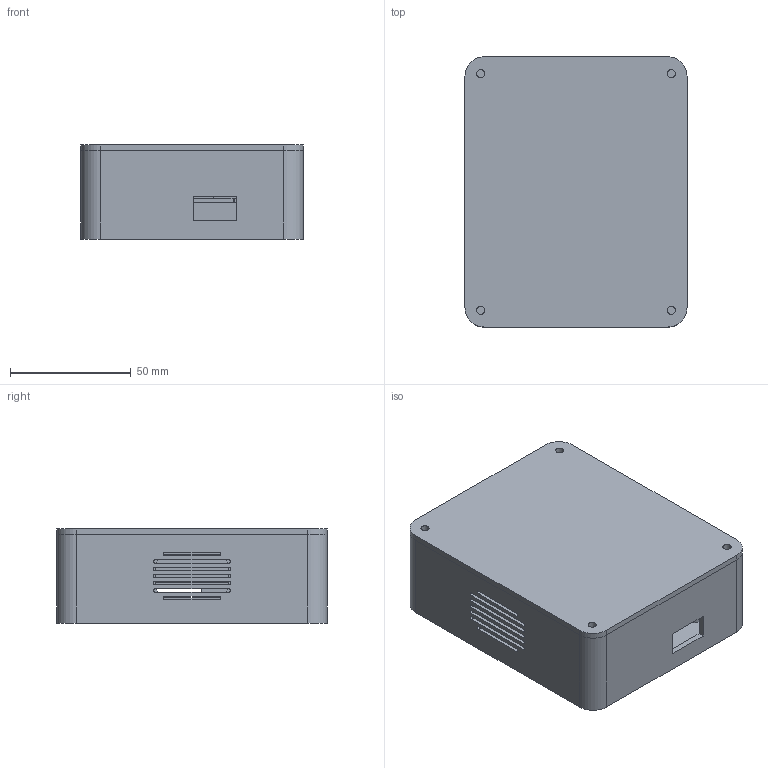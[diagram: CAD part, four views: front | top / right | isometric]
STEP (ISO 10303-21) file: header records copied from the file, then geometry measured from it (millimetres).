
FILE_DESCRIPTION(('Open CASCADE Model'),'2;1');
FILE_NAME('Open CASCADE Shape Model','2026-09-20T16:08:25',('Author'),( 'Open CASCADE'),'Open CASCADE STEP processor 7.9','Open CASCADE 7.9' ,'Unknown');
FILE_SCHEMA(('AUTOMOTIVE_DESIGN { 1 0 10303 214 1 1 1 1 }'));
Length unit declared in the file: millimetre
Products named in the file (5): Lantern_service_case_v02; front_shell; rear_lid; battery_tray; speaker_retainer
Assembly tree (4 placements, depth 2):
  Lantern_service_case_v02
    front_shell
    rear_lid
    battery_tray
    speaker_retainer
Bounding box: 92 x 112 x 39 mm (x, y, z)
Volume: 98853.4 mm3; surface area: 86415.9 mm2
Topology: 4 solids, 4 shells, 344 faces, 909 edges, 605 vertices
Faces by surface type: plane 227, cylinder 117
Full cylindrical faces by diameter (mm): 2.1 x10, 2.8 x6, 3.4 x8, 5 x1, 6.4 x4, 6.8 x2, 7.6 x4
Entity records: 22513 total; most frequent: CARTESIAN_POINT 4707, DIRECTION 3116, ORIENTED_EDGE 1818, PCURVE 1818, DEFINITIONAL_REPRESENTATION 1818, LINE 1787, VECTOR 1787, EDGE_CURVE 909
